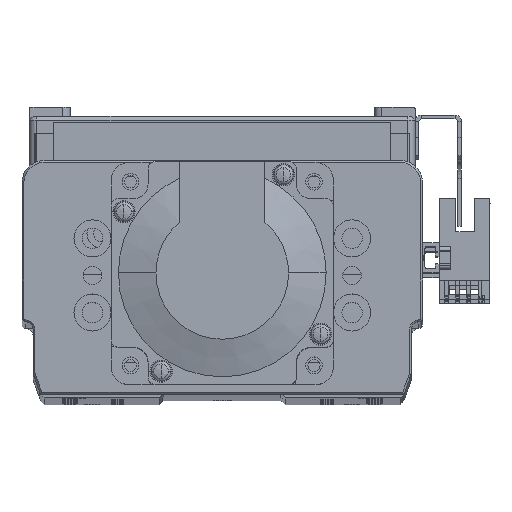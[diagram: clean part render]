
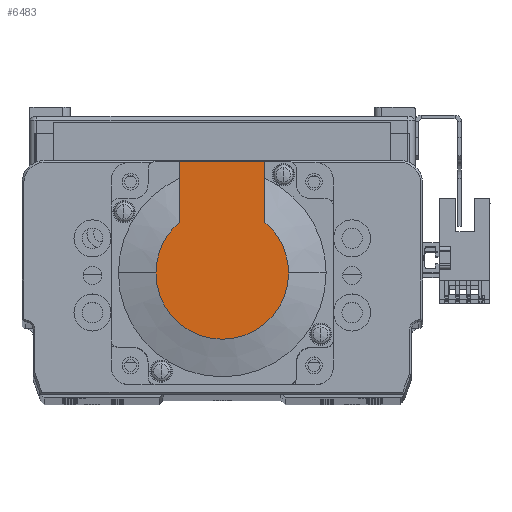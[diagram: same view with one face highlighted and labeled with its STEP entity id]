
A CAD part, top view. The second image highlights one B-rep face of the part: STEP entity #6483.
In plain terms, the highlighted planar face has unit normal (0, 0, 1) as drawn and (-1, 0, 0) by its records, which use the part's own axes.
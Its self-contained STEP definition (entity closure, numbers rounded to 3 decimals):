
#3604 = AXIS2_PLACEMENT_3D ( 'NONE', #30930, #30967, #30968 ) ;
#3654 = AXIS2_PLACEMENT_3D ( 'NONE', #30935, #30932, #30953 ) ;
#3683 = AXIS2_PLACEMENT_3D ( 'NONE', #31417, #31407, #31384 ) ;
#6483 = ADVANCED_FACE ( 'NONE', ( #17346 ), #47130, .T. ) ;
#17346 = FACE_OUTER_BOUND ( 'NONE', #33053, .T. ) ;
#21350 = ORIENTED_EDGE ( 'NONE', *, *, #44214, .T. ) ;
#21358 = ORIENTED_EDGE ( 'NONE', *, *, #44127, .T. ) ;
#21359 = ORIENTED_EDGE ( 'NONE', *, *, #44257, .F. ) ;
#21369 = ORIENTED_EDGE ( 'NONE', *, *, #43880, .T. ) ;
#21378 = ORIENTED_EDGE ( 'NONE', *, *, #43878, .T. ) ;
#21395 = ORIENTED_EDGE ( 'NONE', *, *, #44263, .F. ) ;
#30153 = CARTESIAN_POINT ( 'NONE',  ( -99., 13.735, -11.45 ) ) ;
#30155 = CARTESIAN_POINT ( 'NONE',  ( -99., 30., 11.45 ) ) ;
#30196 = CARTESIAN_POINT ( 'NONE',  ( -99., 30., -11.45 ) ) ;
#30930 = CARTESIAN_POINT ( 'NONE',  ( -99., 0., 0. ) ) ;
#30932 = DIRECTION ( 'NONE',  ( -1., 0., 0. ) ) ;
#30935 = CARTESIAN_POINT ( 'NONE',  ( -99., 0., 0. ) ) ;
#30953 = DIRECTION ( 'NONE',  ( 0., 0., -1. ) ) ;
#30967 = DIRECTION ( 'NONE',  ( -1., 0., 0. ) ) ;
#30968 = DIRECTION ( 'NONE',  ( 0., 0., -1. ) ) ;
#31384 = DIRECTION ( 'NONE',  ( 0., 0., -1. ) ) ;
#31407 = DIRECTION ( 'NONE',  ( -1., 0., 0. ) ) ;
#31417 = CARTESIAN_POINT ( 'NONE',  ( -99., 0., 0. ) ) ;
#31605 = DIRECTION ( 'NONE',  ( 0., -1., 0. ) ) ;
#31628 = CARTESIAN_POINT ( 'NONE',  ( -99., -8.941, -11.45 ) ) ;
#31669 = DIRECTION ( 'NONE',  ( 0., -1., 0. ) ) ;
#31706 = CARTESIAN_POINT ( 'NONE',  ( -99., 0., 11.45 ) ) ;
#31746 = CARTESIAN_POINT ( 'NONE',  ( -99., 30., 25. ) ) ;
#31747 = DIRECTION ( 'NONE',  ( 0., 0., 1. ) ) ;
#31996 = CIRCLE ( 'NONE', #3683, 17.881 ) ;
#32091 = LINE ( 'NONE', #31628, #32097 ) ;
#32097 = VECTOR ( 'NONE', #31605, 1000. ) ;
#32147 = LINE ( 'NONE', #31706, #32148 ) ;
#32148 = VECTOR ( 'NONE', #31669, 1000. ) ;
#32215 = VECTOR ( 'NONE', #31747, 1000. ) ;
#32234 = LINE ( 'NONE', #31746, #32215 ) ;
#33053 = EDGE_LOOP ( 'NONE', ( #21350, #21358, #21369, #21378, #21359, #21395 ) ) ;
#38801 = VERTEX_POINT ( 'NONE', #30155 ) ;
#38818 = VERTEX_POINT ( 'NONE', #30153 ) ;
#38910 = VERTEX_POINT ( 'NONE', #30196 ) ;
#41763 = AXIS2_PLACEMENT_3D ( 'NONE', #47162, #47168, #47172 ) ;
#43878 = EDGE_CURVE ( 'NONE', #54038, #54026, #53591, .T. ) ;
#43880 = EDGE_CURVE ( 'NONE', #53965, #54038, #53565, .T. ) ;
#44127 = EDGE_CURVE ( 'NONE', #38818, #53965, #31996, .T. ) ;
#44214 = EDGE_CURVE ( 'NONE', #38910, #38818, #32091, .T. ) ;
#44257 = EDGE_CURVE ( 'NONE', #38801, #54026, #32147, .T. ) ;
#44263 = EDGE_CURVE ( 'NONE', #38910, #38801, #32234, .T. ) ;
#47130 = PLANE ( 'NONE',  #41763 ) ;
#47162 = CARTESIAN_POINT ( 'NONE',  ( -99., -8.941, 0. ) ) ;
#47168 = DIRECTION ( 'NONE',  ( -1., 0., 0. ) ) ;
#47172 = DIRECTION ( 'NONE',  ( 0., 0., 1. ) ) ;
#53565 = CIRCLE ( 'NONE', #3654, 17.881 ) ;
#53591 = CIRCLE ( 'NONE', #3604, 17.881 ) ;
#53965 = VERTEX_POINT ( 'NONE', #54107 ) ;
#54026 = VERTEX_POINT ( 'NONE', #54312 ) ;
#54038 = VERTEX_POINT ( 'NONE', #54296 ) ;
#54107 = CARTESIAN_POINT ( 'NONE',  ( -99., 0., -17.881 ) ) ;
#54296 = CARTESIAN_POINT ( 'NONE',  ( -99., 0., 17.881 ) ) ;
#54312 = CARTESIAN_POINT ( 'NONE',  ( -99., 13.735, 11.45 ) ) ;
